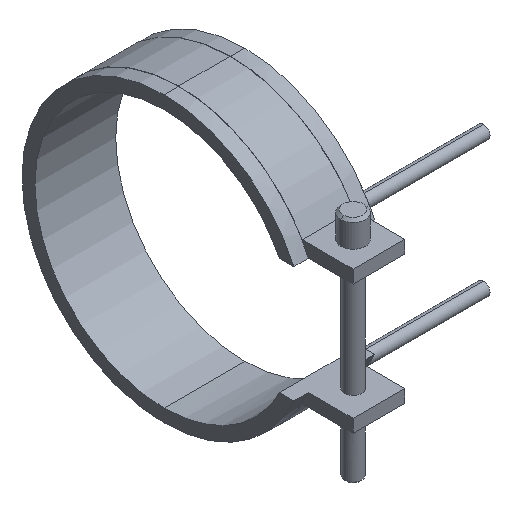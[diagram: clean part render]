
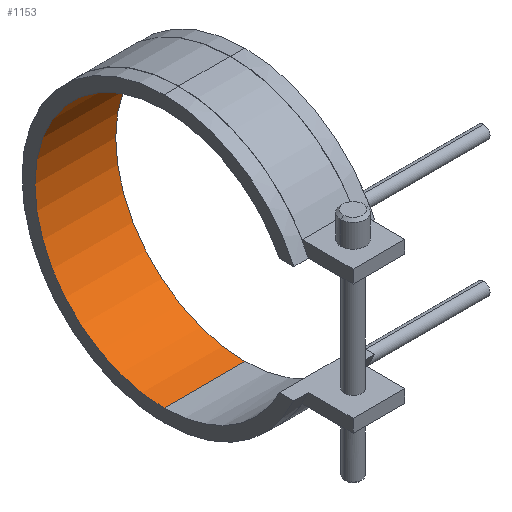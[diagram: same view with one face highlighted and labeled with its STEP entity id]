
A CAD part, isometric view. The second image highlights one B-rep face of the part: STEP entity #1153.
In plain terms, the highlighted cylindrical face has radius 40 mm (diameter 80 mm), a partial arc.
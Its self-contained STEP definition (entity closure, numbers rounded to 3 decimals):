
#834=CARTESIAN_POINT('Vertex',(-12.5,0.,-40.)) ;
#841=CARTESIAN_POINT('Vertex',(12.5,0.,-40.)) ;
#844=CARTESIAN_POINT('Line Origine',(12.5,0.,-40.)) ;
#862=CARTESIAN_POINT('Axis2P3D Location',(-12.5,0.,0.)) ;
#866=CARTESIAN_POINT('Vertex',(-12.5,0.,40.)) ;
#923=CARTESIAN_POINT('Vertex',(12.5,0.,40.)) ;
#933=CARTESIAN_POINT('Line Origine',(12.5,0.,40.)) ;
#1024=CARTESIAN_POINT('Axis2P3D Location',(12.5,0.,0.)) ;
#1142=CARTESIAN_POINT('Axis2P3D Location',(12.5,0.,0.)) ;
#845=DIRECTION('Vector Direction',(1.,0.,0.)) ;
#863=DIRECTION('Axis2P3D Direction',(1.,0.,0.)) ;
#934=DIRECTION('Vector Direction',(1.,0.,0.)) ;
#1025=DIRECTION('Axis2P3D Direction',(1.,0.,0.)) ;
#1143=DIRECTION('Axis2P3D Direction',(1.,0.,-0.)) ;
#1144=DIRECTION('Axis2P3D XDirection',(0.,0.,-1.)) ;
#864=AXIS2_PLACEMENT_3D('Circle Axis2P3D',#862,#863,$) ;
#1026=AXIS2_PLACEMENT_3D('Circle Axis2P3D',#1024,#1025,$) ;
#1145=AXIS2_PLACEMENT_3D('Cylinder Axis2P3D',#1142,#1143,#1144) ;
#1148=ORIENTED_EDGE('',*,*,#1028,.T.) ;
#1149=ORIENTED_EDGE('',*,*,#937,.T.) ;
#1150=ORIENTED_EDGE('',*,*,#868,.F.) ;
#1151=ORIENTED_EDGE('',*,*,#848,.T.) ;
#846=VECTOR('Line Direction',#845,1.) ;
#935=VECTOR('Line Direction',#934,1.) ;
#1153=ADVANCED_FACE('14080025',(#1152),#1146,.F.) ;
#865=CIRCLE('generated circle',#864,40.) ;
#1027=CIRCLE('generated circle',#1026,40.) ;
#1146=CYLINDRICAL_SURFACE('generated cylinder',#1145,40.) ;
#848=EDGE_CURVE('',#835,#842,#847,.T.) ;
#868=EDGE_CURVE('',#835,#867,#865,.T.) ;
#937=EDGE_CURVE('',#924,#867,#936,.F.) ;
#1028=EDGE_CURVE('',#842,#924,#1027,.T.) ;
#1147=EDGE_LOOP('',(#1148,#1149,#1150,#1151)) ;
#1152=FACE_OUTER_BOUND('',#1147,.T.) ;
#847=LINE('Line',#844,#846) ;
#936=LINE('Line',#933,#935) ;
#835=VERTEX_POINT('',#834) ;
#842=VERTEX_POINT('',#841) ;
#867=VERTEX_POINT('',#866) ;
#924=VERTEX_POINT('',#923) ;
